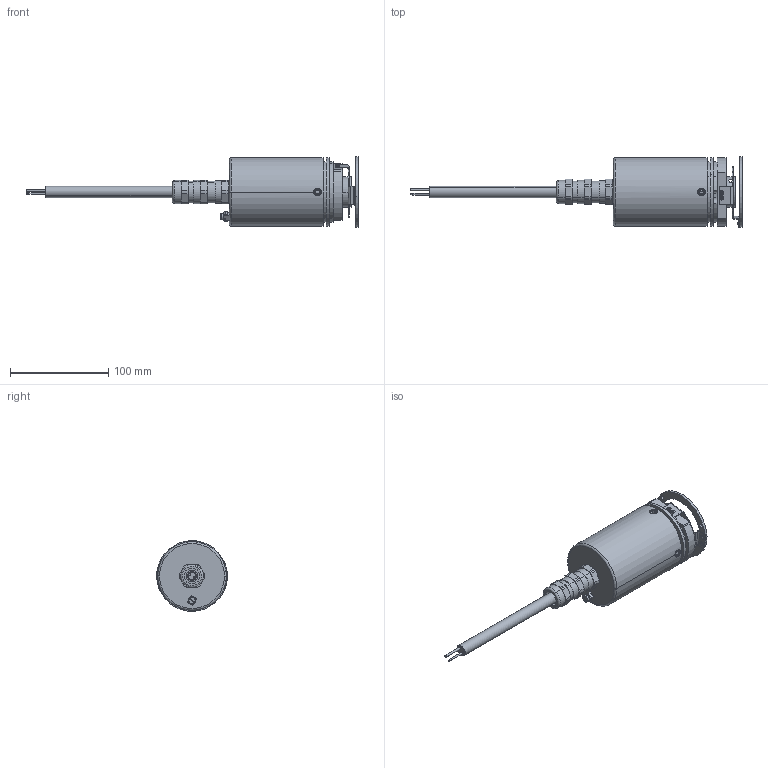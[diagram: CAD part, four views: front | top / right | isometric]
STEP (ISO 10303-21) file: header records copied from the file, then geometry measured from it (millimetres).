
FILE_DESCRIPTION (( 'STEP AP214' ), '1' );
FILE_NAME ('8.7020.52x1.xxxx.STEP', '2015-04-27T05:35:54', ( 'admin' ), ( 'Microsoft' ), 'SwSTEP 2.0', 'SolidWorks 2013', '' );
FILE_SCHEMA (( 'AUTOMOTIVE_DESIGN' ));
Length unit declared in the file: millimetre
Products named in the file (1): 8.7020.52x1.xxxx
Bounding box: 338.1 x 71.93 x 71.93 mm (x, y, z)
Surface area: 64848.4 mm2 (no closed solid volume)
Topology: 0 solids, 36 shells, 385 faces, 1141 edges, 792 vertices
Faces by surface type: cylinder 174, plane 146, cone 40, torus 21, sphere 4
Entity records: 17922 total; most frequent: CARTESIAN_POINT 3173, DIRECTION 2326, ORIENTED_EDGE 1913, EDGE_CURVE 1141, AXIS2_PLACEMENT_3D 887, VERTEX_POINT 792, VECTOR 552, LINE 552
